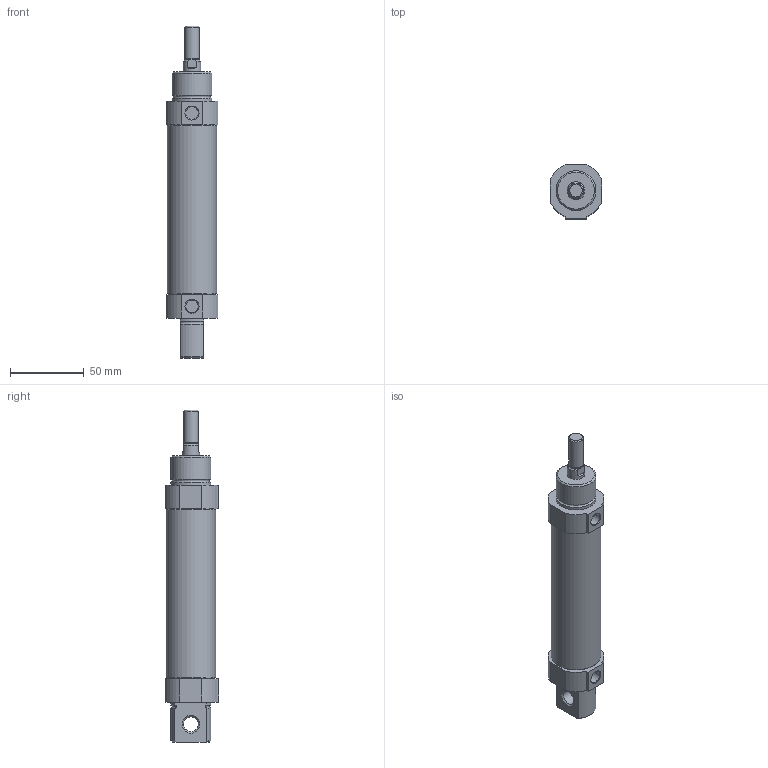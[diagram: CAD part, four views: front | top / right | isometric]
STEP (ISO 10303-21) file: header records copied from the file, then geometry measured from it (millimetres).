
FILE_DESCRIPTION((''),'2;1');
FILE_NAME('I:\3D電子目錄\氣缸\SDA\SDA32\SDA32\SDA32x75.stp','2007-08-06T10:36:09',('Administrator'),(''),'Autodesk Inventor 2008','Autodesk Inventor 2008','');
FILE_SCHEMA(('AUTOMOTIVE_DESIGN { 1 0 10303 214 1 1 1 1 }'));
Length unit declared in the file: millimetre
Products named in the file (1): SDA32X75
Bounding box: 35 x 36.5 x 225 mm (x, y, z)
Volume: 159424.3 mm3; surface area: 24457.2 mm2
Topology: 1 solids, 1 shells, 65 faces, 152 edges, 98 vertices
Faces by surface type: plane 27, cylinder 21, cone 12, torus 3, bspline 2
Full cylindrical faces by diameter (mm): 8.5 x2, 8.6 x1, 10 x2, 12 x1, 27 x2, 33.6 x1
Entity records: 1946 total; most frequent: CARTESIAN_POINT 486, DIRECTION 306, ORIENTED_EDGE 266, EDGE_CURVE 133, AXIS2_PLACEMENT_3D 121, VERTEX_POINT 97, EDGE_LOOP 94, FACE_OUTER_BOUND 65
